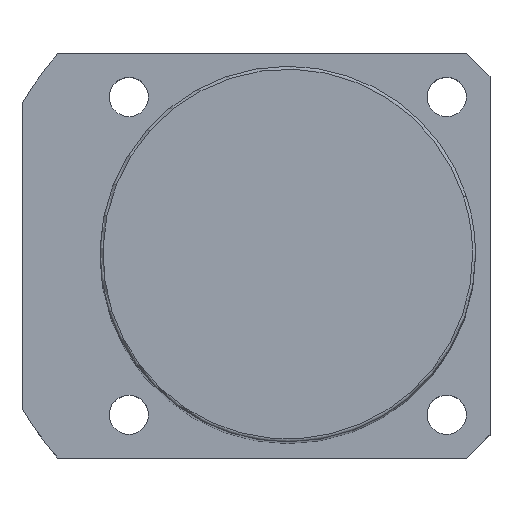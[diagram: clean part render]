
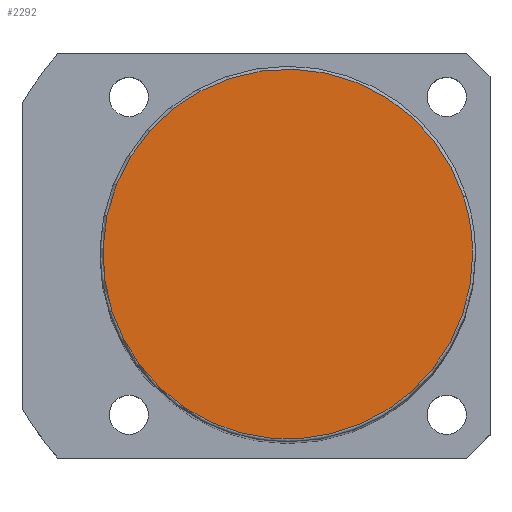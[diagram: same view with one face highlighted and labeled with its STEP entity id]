
A CAD part, top view. The second image highlights one B-rep face of the part: STEP entity #2292.
In plain terms, the highlighted planar face has unit normal (0, 0, 1).
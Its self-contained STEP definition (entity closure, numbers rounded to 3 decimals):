
#2225=CARTESIAN_POINT('',(30.434,9.889,191.0));
#2226=VERTEX_POINT('',#2225);
#2244=CARTESIAN_POINT('',(-30.434,-9.889,191.0));
#2245=VERTEX_POINT('',#2244);
#2253=CARTESIAN_POINT('',(0.0,0.0,191.0));
#2254=DIRECTION('',(0.0,0.0,1.0));
#2255=DIRECTION('',(1.0,0.0,0.0));
#2256=AXIS2_PLACEMENT_3D('',#2253,#2254,#2255);
#2257=CIRCLE('',#2256,32.0);
#2258=EDGE_CURVE('no 2143',#2226,#2245,#2257,.T.);
#2268=CARTESIAN_POINT('',(32.0,0.0,191.0));
#2269=VERTEX_POINT('',#2268);
#2270=CARTESIAN_POINT('',(0.0,0.0,191.0));
#2271=DIRECTION('',(0.0,0.0,1.0));
#2272=DIRECTION('',(1.0,0.0,0.0));
#2273=AXIS2_PLACEMENT_3D('',#2270,#2271,#2272);
#2274=CIRCLE('',#2273,32.0);
#2275=EDGE_CURVE('no 2152',#2269,#2226,#2274,.T.);
#2276=ORIENTED_EDGE('',*,*,#2275,.T.);
#2277=ORIENTED_EDGE('',*,*,#2258,.T.);
#2278=CARTESIAN_POINT('',(0.0,0.0,191.0));
#2279=DIRECTION('',(0.0,0.0,1.0));
#2280=DIRECTION('',(1.0,0.0,0.0));
#2281=AXIS2_PLACEMENT_3D('',#2278,#2279,#2280);
#2282=CIRCLE('',#2281,32.0);
#2283=EDGE_CURVE('no 2158',#2245,#2269,#2282,.T.);
#2284=ORIENTED_EDGE('',*,*,#2283,.T.);
#2285=EDGE_LOOP('',(#2276,#2277,#2284));
#2286=FACE_OUTER_BOUND('',#2285,.T.);
#2287=CARTESIAN_POINT('',(0.0,0.0,191.0));
#2288=DIRECTION('',(0.0,0.0,1.0));
#2289=DIRECTION('',(1.0,0.0,0.0));
#2290=AXIS2_PLACEMENT_3D('',#2287,#2288,#2289);
#2291=PLANE('',#2290);
#2292=ADVANCED_FACE('no 2145',(#2286),#2291,.T.);
